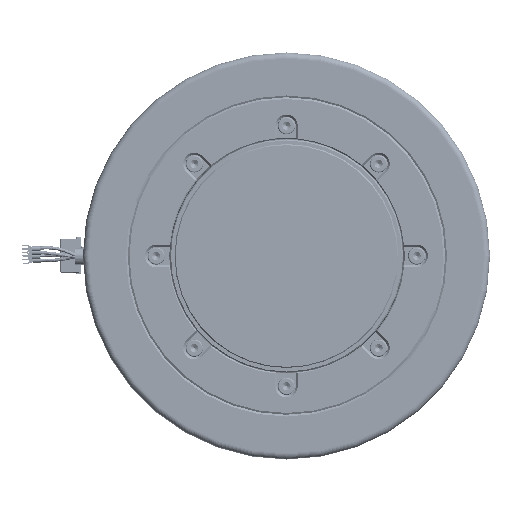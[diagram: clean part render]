
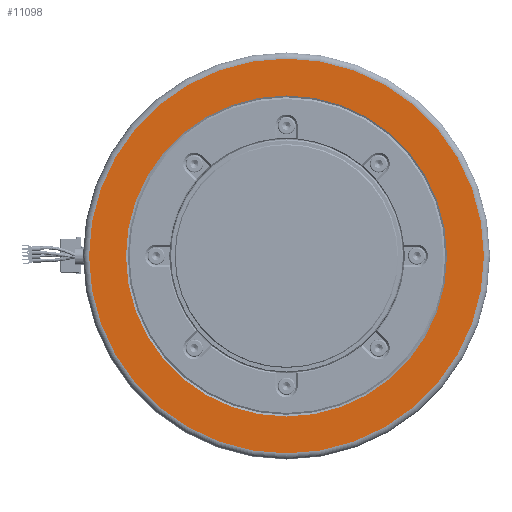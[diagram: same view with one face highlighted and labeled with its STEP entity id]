
A CAD part, left-side view. The second image highlights one B-rep face of the part: STEP entity #11098.
In plain terms, the highlighted planar face has unit normal (-1, 0, 0) as drawn and (1, 0, 0) by its records, which use the part's own axes.
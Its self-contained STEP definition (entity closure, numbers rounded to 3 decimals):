
#8279=CARTESIAN_POINT('',(55.,0.,0.));
#8280=DIRECTION('',(-1.,0.,0.));
#8281=DIRECTION('',(0.,0.,1.));
#8282=AXIS2_PLACEMENT_3D('',#8279,#8280,#8281);
#8284=CARTESIAN_POINT('',(55.,0.,0.));
#8285=DIRECTION('',(-1.,0.,0.));
#8286=DIRECTION('',(0.,0.,-1.));
#8287=AXIS2_PLACEMENT_3D('',#8284,#8285,#8286);
#8289=CARTESIAN_POINT('',(55.,0.,0.));
#8290=DIRECTION('',(1.,0.,0.));
#8291=DIRECTION('',(0.,0.,1.));
#8292=AXIS2_PLACEMENT_3D('',#8289,#8290,#8291);
#8294=CARTESIAN_POINT('',(55.,0.,0.));
#8295=DIRECTION('',(1.,0.,0.));
#8296=DIRECTION('',(0.,0.,-1.));
#8297=AXIS2_PLACEMENT_3D('',#8294,#8295,#8296);
#10286=CARTESIAN_POINT('',(55.,0.,-78.866));
#10287=VERTEX_POINT('',#10286);
#10288=CARTESIAN_POINT('',(55.,0.,78.866));
#10289=VERTEX_POINT('',#10288);
#10290=CARTESIAN_POINT('',(55.,0.,97.));
#10291=CARTESIAN_POINT('',(55.,0.,-97.));
#10292=VERTEX_POINT('',#10290);
#10293=VERTEX_POINT('',#10291);
#11083=CARTESIAN_POINT('',(55.,97.,0.));
#11084=DIRECTION('',(-1.,0.,0.));
#11085=DIRECTION('',(0.,0.,1.));
#11086=AXIS2_PLACEMENT_3D('',#11083,#11084,#11085);
#11087=PLANE('',#11086);
#11089=ORIENTED_EDGE('',*,*,#11088,.T.);
#11091=ORIENTED_EDGE('',*,*,#11090,.T.);
#11092=EDGE_LOOP('',(#11089,#11091));
#11093=FACE_OUTER_BOUND('',#11092,.F.);
#11094=ORIENTED_EDGE('',*,*,#11063,.T.);
#11095=ORIENTED_EDGE('',*,*,#11076,.T.);
#11096=EDGE_LOOP('',(#11094,#11095));
#11097=FACE_BOUND('',#11096,.F.);
#11098=ADVANCED_FACE('',(#11093,#11097),#11087,.F.);
#8283=CIRCLE('',#8282,97.);
#8288=CIRCLE('',#8287,97.);
#8293=CIRCLE('',#8292,78.866);
#8298=CIRCLE('',#8297,78.866);
#11063=EDGE_CURVE('',#10289,#10287,#8293,.T.);
#11076=EDGE_CURVE('',#10287,#10289,#8298,.T.);
#11088=EDGE_CURVE('',#10292,#10293,#8283,.T.);
#11090=EDGE_CURVE('',#10293,#10292,#8288,.T.);
